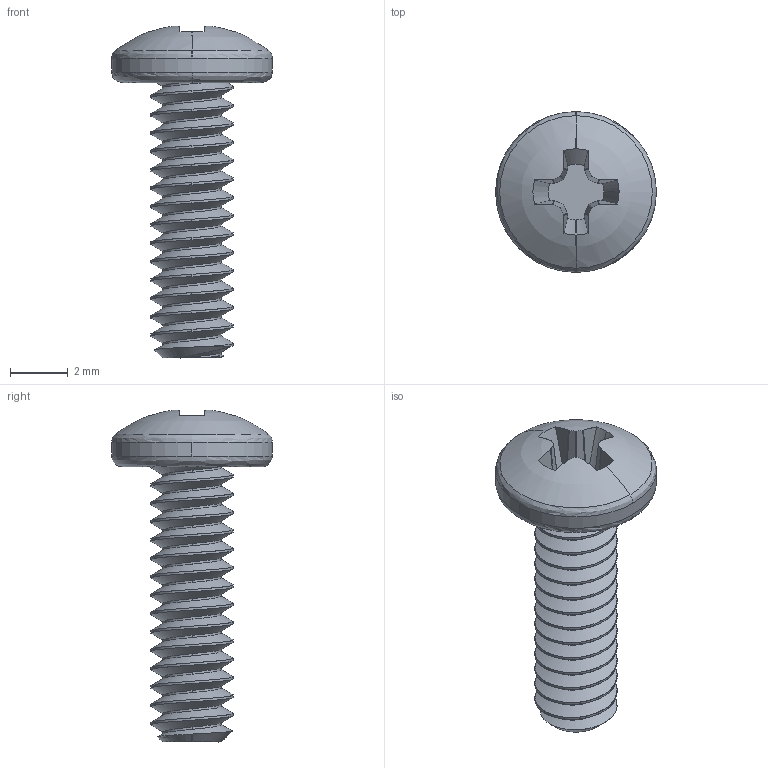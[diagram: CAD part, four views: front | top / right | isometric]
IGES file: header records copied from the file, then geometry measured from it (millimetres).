
Start section: SolidWorks IGES file using analytic representation for surfaces
Global section: file name: C:\Users\Bud\Documents\GitHub\telemetry\Hardware\Masthead hardware\IGES\4-40x.375 - McM91735A104.IGS; native system: SolidWorks 2011; preprocessor: SolidWorks 2011; author: Bud; date: 131225.212127; units: inch
Bounding box: 5.56 x 5.56 x 11.49 mm (x, y, z)
Surface area: 203 mm2 (no closed solid volume)
Topology: 0 solids, 0 shells, 127 faces, 2157 edges, 2157 vertices
Faces by surface type: revolution 101, bspline 26
